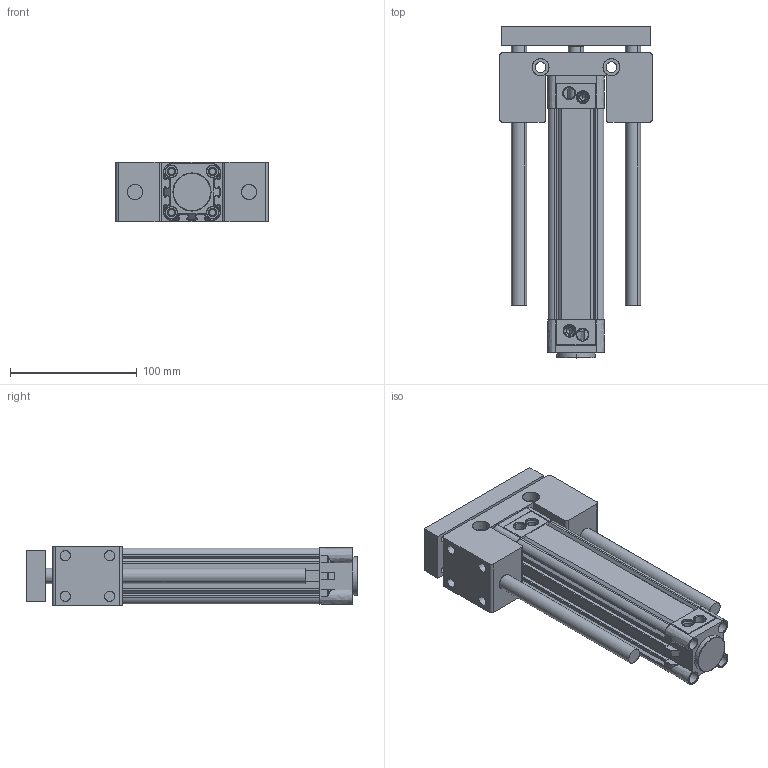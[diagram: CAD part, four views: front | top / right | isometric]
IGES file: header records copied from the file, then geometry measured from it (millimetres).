
Start section: SolidWorks IGES file using analytic representation for surfaces
Global section: file name: D:\ARICA 3D 禽Z軲LER\3D IGES\DNC-U\KDNC\32\KDNC32X125-U-YATAK.IGS,1; native system: 5HSolidWorks 2013; preprocessor: SolidWorks 2013; author: user; date: 160907.160212; units: millimetre
Bounding box: 120 x 262 x 47 mm (x, y, z)
Surface area: 193022.5 mm2 (no closed solid volume)
Topology: 0 solids, 0 shells, 825 faces, 12443 edges, 12411 vertices
Faces by surface type: revolution 445, bspline 380
